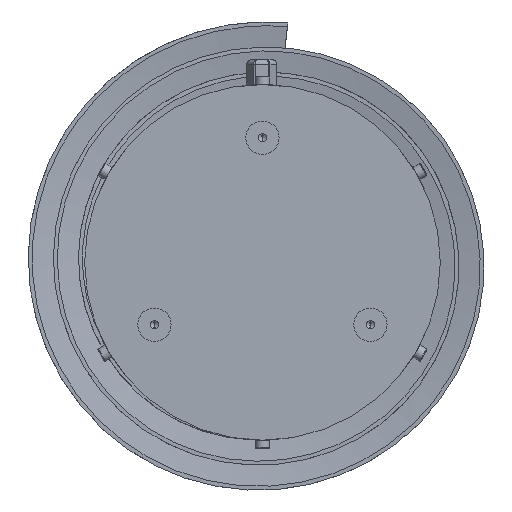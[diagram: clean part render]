
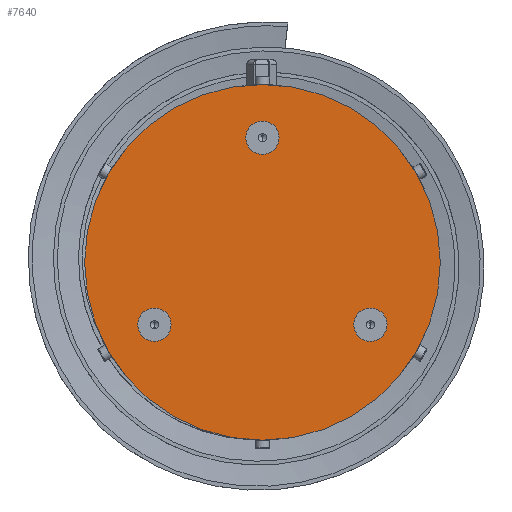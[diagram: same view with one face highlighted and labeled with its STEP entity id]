
A CAD part, front view. The second image highlights one B-rep face of the part: STEP entity #7640.
In plain terms, the highlighted planar face has unit normal (0, -1, 0).
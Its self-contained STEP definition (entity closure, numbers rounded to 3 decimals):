
#364 = EDGE_CURVE ( 'NONE', #9870, #5957, #1916, .T. ) ;
#506 = CIRCLE ( 'NONE', #10071, 10. ) ;
#524 = EDGE_CURVE ( 'NONE', #12633, #6804, #4473, .T. ) ;
#935 = VERTEX_POINT ( 'NONE', #10485 ) ;
#1023 = CARTESIAN_POINT ( 'NONE',  ( -64.952, 0., -27.5 ) ) ;
#1032 = EDGE_CURVE ( 'NONE', #935, #5264, #4921, .T. ) ;
#1034 = FACE_BOUND ( 'NONE', #11595, .T. ) ;
#1120 = AXIS2_PLACEMENT_3D ( 'NONE', #12445, #9523, #11438 ) ;
#1244 = ORIENTED_EDGE ( 'NONE', *, *, #364, .F. ) ;
#1620 = DIRECTION ( 'NONE',  ( 0., -1., 0. ) ) ;
#1663 = PLANE ( 'NONE',  #4042 ) ;
#1718 = DIRECTION ( 'NONE',  ( 0., 0., 1. ) ) ;
#1916 = CIRCLE ( 'NONE', #2091, 10. ) ;
#1991 = DIRECTION ( 'NONE',  ( 0., 0., 1. ) ) ;
#1998 = ORIENTED_EDGE ( 'NONE', *, *, #11185, .F. ) ;
#2091 = AXIS2_PLACEMENT_3D ( 'NONE', #10202, #4602, #8479 ) ;
#2238 = FACE_OUTER_BOUND ( 'NONE', #6811, .T. ) ;
#2244 = AXIS2_PLACEMENT_3D ( 'NONE', #6500, #10773, #1991 ) ;
#2354 = AXIS2_PLACEMENT_3D ( 'NONE', #3059, #4963, #5940 ) ;
#2587 = ORIENTED_EDGE ( 'NONE', *, *, #3195, .F. ) ;
#2795 = DIRECTION ( 'NONE',  ( 0., 0., 1. ) ) ;
#3059 = CARTESIAN_POINT ( 'NONE',  ( 0., 0., 75. ) ) ;
#3106 = ORIENTED_EDGE ( 'NONE', *, *, #8787, .F. ) ;
#3139 = AXIS2_PLACEMENT_3D ( 'NONE', #5464, #1620, #9392 ) ;
#3195 = EDGE_CURVE ( 'NONE', #5264, #935, #8740, .T. ) ;
#3841 = DIRECTION ( 'NONE',  ( 0., -1., 0. ) ) ;
#3971 = ORIENTED_EDGE ( 'NONE', *, *, #7710, .F. ) ;
#4042 = AXIS2_PLACEMENT_3D ( 'NONE', #10443, #12449, #1718 ) ;
#4075 = FACE_BOUND ( 'NONE', #5600, .T. ) ;
#4473 = CIRCLE ( 'NONE', #2244, 10. ) ;
#4559 = CARTESIAN_POINT ( 'NONE',  ( -64.952, 0., -37.5 ) ) ;
#4602 = DIRECTION ( 'NONE',  ( 0., -1., 0. ) ) ;
#4921 = CIRCLE ( 'NONE', #1120, 107. ) ;
#4963 = DIRECTION ( 'NONE',  ( 0., -1., 0. ) ) ;
#5264 = VERTEX_POINT ( 'NONE', #6270 ) ;
#5317 = CARTESIAN_POINT ( 'NONE',  ( -64.952, 0., -47.5 ) ) ;
#5385 = EDGE_LOOP ( 'NONE', ( #6486, #10955 ) ) ;
#5420 = AXIS2_PLACEMENT_3D ( 'NONE', #7793, #3841, #9603 ) ;
#5453 = CARTESIAN_POINT ( 'NONE',  ( 64.952, 0., -47.5 ) ) ;
#5464 = CARTESIAN_POINT ( 'NONE',  ( -64.952, 0., -37.5 ) ) ;
#5556 = DIRECTION ( 'NONE',  ( 0., -1., 0. ) ) ;
#5600 = EDGE_LOOP ( 'NONE', ( #1998, #3971 ) ) ;
#5866 = CIRCLE ( 'NONE', #5420, 10. ) ;
#5940 = DIRECTION ( 'NONE',  ( 0., 0., 1. ) ) ;
#5957 = VERTEX_POINT ( 'NONE', #10432 ) ;
#6098 = CIRCLE ( 'NONE', #2354, 10. ) ;
#6270 = CARTESIAN_POINT ( 'NONE',  ( 0., 0., 107. ) ) ;
#6486 = ORIENTED_EDGE ( 'NONE', *, *, #524, .F. ) ;
#6500 = CARTESIAN_POINT ( 'NONE',  ( 0., 0., 75. ) ) ;
#6804 = VERTEX_POINT ( 'NONE', #10757 ) ;
#6811 = EDGE_LOOP ( 'NONE', ( #2587, #11809 ) ) ;
#6949 = CIRCLE ( 'NONE', #3139, 10. ) ;
#7640 = ADVANCED_FACE ( 'NONE', ( #4075, #1034, #9398, #2238 ), #1663, .F. ) ;
#7710 = EDGE_CURVE ( 'NONE', #9866, #11717, #6949, .T. ) ;
#7793 = CARTESIAN_POINT ( 'NONE',  ( 64.952, 0., -37.5 ) ) ;
#8479 = DIRECTION ( 'NONE',  ( 0., 0., 1. ) ) ;
#8602 = DIRECTION ( 'NONE',  ( 0., 1., 0. ) ) ;
#8647 = CARTESIAN_POINT ( 'NONE',  ( 0., 0., 0. ) ) ;
#8740 = CIRCLE ( 'NONE', #10691, 107. ) ;
#8787 = EDGE_CURVE ( 'NONE', #5957, #9870, #5866, .T. ) ;
#9392 = DIRECTION ( 'NONE',  ( 0., 0., 1. ) ) ;
#9398 = FACE_BOUND ( 'NONE', #5385, .T. ) ;
#9523 = DIRECTION ( 'NONE',  ( 0., 1., 0. ) ) ;
#9603 = DIRECTION ( 'NONE',  ( 0., 0., 1. ) ) ;
#9866 = VERTEX_POINT ( 'NONE', #5317 ) ;
#9870 = VERTEX_POINT ( 'NONE', #5453 ) ;
#10071 = AXIS2_PLACEMENT_3D ( 'NONE', #4559, #5556, #10277 ) ;
#10202 = CARTESIAN_POINT ( 'NONE',  ( 64.952, 0., -37.5 ) ) ;
#10277 = DIRECTION ( 'NONE',  ( 0., 0., 1. ) ) ;
#10432 = CARTESIAN_POINT ( 'NONE',  ( 64.952, 0., -27.5 ) ) ;
#10443 = CARTESIAN_POINT ( 'NONE',  ( 0., 0., 0. ) ) ;
#10485 = CARTESIAN_POINT ( 'NONE',  ( 0., 0., -107. ) ) ;
#10691 = AXIS2_PLACEMENT_3D ( 'NONE', #8647, #8602, #2795 ) ;
#10757 = CARTESIAN_POINT ( 'NONE',  ( 0., 0., 65. ) ) ;
#10773 = DIRECTION ( 'NONE',  ( 0., -1., 0. ) ) ;
#10955 = ORIENTED_EDGE ( 'NONE', *, *, #12465, .F. ) ;
#11165 = CARTESIAN_POINT ( 'NONE',  ( 0., 0., 85. ) ) ;
#11185 = EDGE_CURVE ( 'NONE', #11717, #9866, #506, .T. ) ;
#11438 = DIRECTION ( 'NONE',  ( 0., 0., 1. ) ) ;
#11595 = EDGE_LOOP ( 'NONE', ( #3106, #1244 ) ) ;
#11717 = VERTEX_POINT ( 'NONE', #1023 ) ;
#11809 = ORIENTED_EDGE ( 'NONE', *, *, #1032, .F. ) ;
#12445 = CARTESIAN_POINT ( 'NONE',  ( 0., 0., 0. ) ) ;
#12449 = DIRECTION ( 'NONE',  ( 0., 1., 0. ) ) ;
#12465 = EDGE_CURVE ( 'NONE', #6804, #12633, #6098, .T. ) ;
#12633 = VERTEX_POINT ( 'NONE', #11165 ) ;
